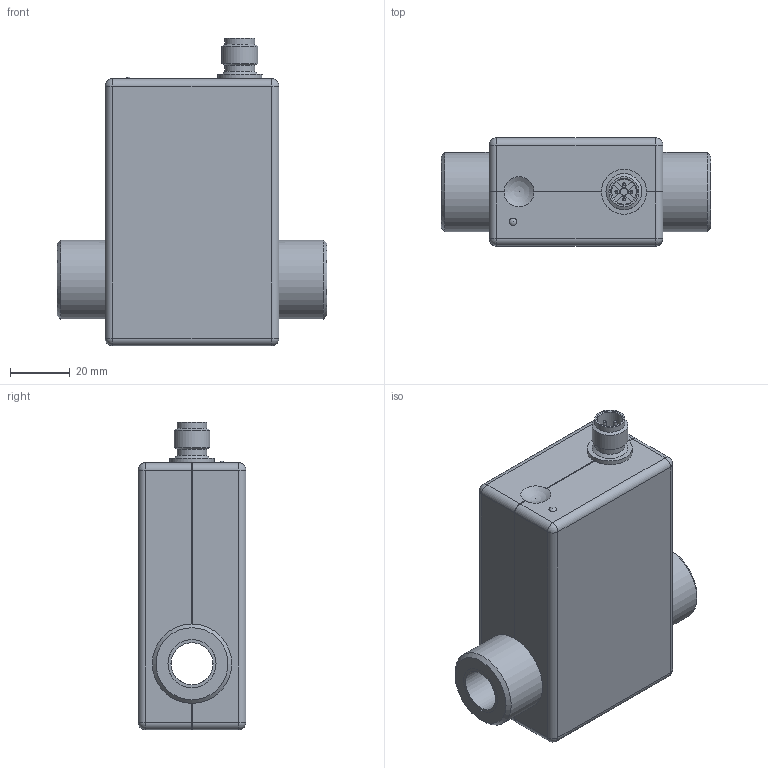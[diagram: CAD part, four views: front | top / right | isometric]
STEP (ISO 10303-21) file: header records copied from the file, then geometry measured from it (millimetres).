
FILE_DESCRIPTION(/* description */ ('VMZ.2 15 D1=G ¾ B, D2=Ø14mm'),/* implementation_level */ '2;1');
FILE_NAME(/* name */ 'F:\Tausch\kuelper\3D-Modelle\VMZ154S1PEGY4000.stp',/* time_stamp */ '2021-01-27T11:54:23+01:00',/* author */ ('kuelper'),/* organization */ (''),/* preprocessor_version */ 'ST-DEVELOPER v18',/* originating_system */ 'Autodesk Inventor 2020',/* authorisation */ '');
FILE_SCHEMA (('AUTOMOTIVE_DESIGN { 1 0 10303 214 3 1 1 }'));
Length unit declared in the file: millimetre
Products named in the file (1): MID-0778
Bounding box: 90 x 36 x 102.5 mm (x, y, z)
Volume: 189291.5 mm3; surface area: 32056.4 mm2
Topology: 3 solids, 3 shells, 119 faces, 325 edges, 206 vertices
Faces by surface type: plane 52, cylinder 47, sphere 14, cone 6
Full cylindrical faces by diameter (mm): 1 x4, 2.5 x1, 8.3 x1, 10 x2, 12 x1, 14 x1, 14.02 x2, 15 x1, 16.02 x2, 16.04 x2, 26.441 x2
Entity records: 3974 total; most frequent: DIRECTION 717, CARTESIAN_POINT 637, ORIENTED_EDGE 622, EDGE_CURVE 311, AXIS2_PLACEMENT_3D 286, VERTEX_POINT 206, CIRCLE 166, LINE 145
